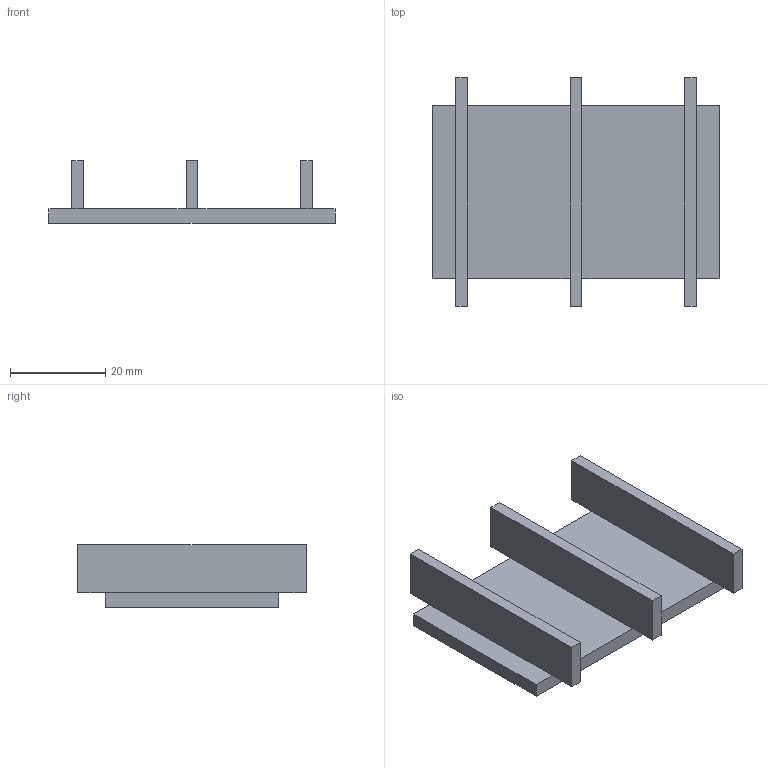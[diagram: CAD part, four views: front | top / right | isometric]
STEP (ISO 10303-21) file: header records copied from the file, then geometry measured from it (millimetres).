
FILE_DESCRIPTION(('Mechanical CAD reference from nasji.com'),'2;1');
FILE_NAME('NASJI.step','',(''),(''),'','NASJI distribution','');
FILE_SCHEMA(('AUTOMOTIVE_DESIGN { 1 0 10303 214 1 1 1 1 }'));
Length unit declared in the file: millimetre
Products named in the file (1): Open CASCADE STEP translator 7.8 109
Bounding box: 60 x 48 x 13.1 mm (x, y, z)
Volume: 10170 mm3; surface area: 8169.6 mm2
Topology: 1 solids, 1 shells, 30 faces, 72 edges, 44 vertices
Faces by surface type: plane 30
Entity records: 1786 total; most frequent: CARTESIAN_POINT 291, DIRECTION 278, LINE 216, VECTOR 216, ORIENTED_EDGE 144, PCURVE 144, DEFINITIONAL_REPRESENTATION 144, EDGE_CURVE 72
